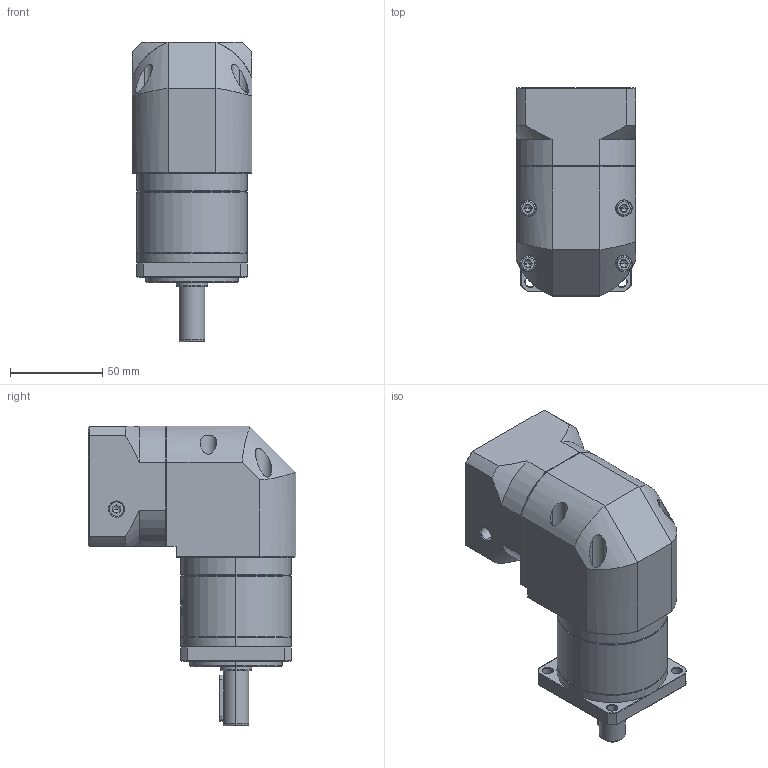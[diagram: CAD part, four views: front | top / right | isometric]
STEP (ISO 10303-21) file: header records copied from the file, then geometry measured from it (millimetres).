
FILE_DESCRIPTION (( 'STEP AP214' ), '1' );
FILE_NAME ('ZFR060-D14-L1-P2-14-60-75-M5.step', '2023-08-17T03:30:15', ( '' ), ( '' ), 'SwSTEP 2.0', 'SolidWorks 2016', '' );
FILE_SCHEMA (( 'AUTOMOTIVE_DESIGN' ));
Length unit declared in the file: millimetre
Products named in the file (1): ZFR060-D14-L1-P2-14-60-75-M5
Bounding box: 65 x 112.7 x 162.5 mm (x, y, z)
Volume: 551549.9 mm3; surface area: 79789.7 mm2
Topology: 5 solids, 6 shells, 1922 faces, 5153 edges, 3328 vertices
Faces by surface type: plane 847, cylinder 407, bspline 354, cone 288, torus 26
Entity records: 106568 total; most frequent: CARTESIAN_POINT 41498, ORIENTED_EDGE 10262, DIRECTION 7686, EDGE_CURVE 5131, VERTEX_POINT 3328, VECTOR 2612, LINE 2612, AXIS2_PLACEMENT_3D 2537
